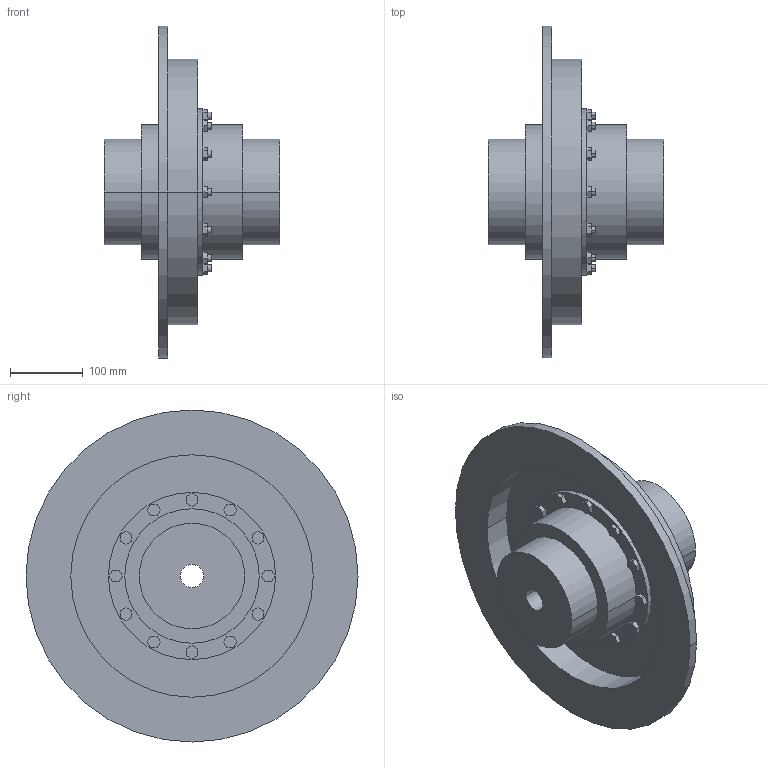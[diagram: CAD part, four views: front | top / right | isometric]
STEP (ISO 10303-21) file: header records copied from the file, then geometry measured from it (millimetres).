
FILE_DESCRIPTION((''),'2;1');
FILE_NAME('A19126200-0_ASM','2018-11-13T',('AB_Roschiwal'),('RENK AG'),'PRO/ENGINEER BY PARAMETRIC TECHNOLOGY CORPORATION, 2015440','PRO/ENGINEER BY PARAMETRIC TECHNOLOGY CORPORATION, 2015440','');
FILE_SCHEMA(('CONFIG_CONTROL_DESIGN'));
Length unit declared in the file: millimetre
Products named in the file (4): LBKT90_GEHAEUSE; LBKT90_NABE; LBKT90_BREMSSCHEIBE; A19126200-0_ASM
Assembly tree (4 placements, depth 2):
  A19126200-0_ASM
    LBKT90_GEHAEUSE
    LBKT90_NABE  x2
    LBKT90_BREMSSCHEIBE
Bounding box: 241 x 457 x 457 mm (x, y, z)
Volume: 7464436.4 mm3; surface area: 851417.5 mm2
Topology: 4 solids, 4 shells, 294 faces, 708 edges, 472 vertices
Faces by surface type: plane 202, cylinder 92
Entity records: 8412 total; most frequent: DIRECTION 1432, CARTESIAN_POINT 1430, ORIENTED_EDGE 1368, EDGE_CURVE 684, VECTOR 516, LINE 516, AXIS2_PLACEMENT_3D 458, VERTEX_POINT 456
